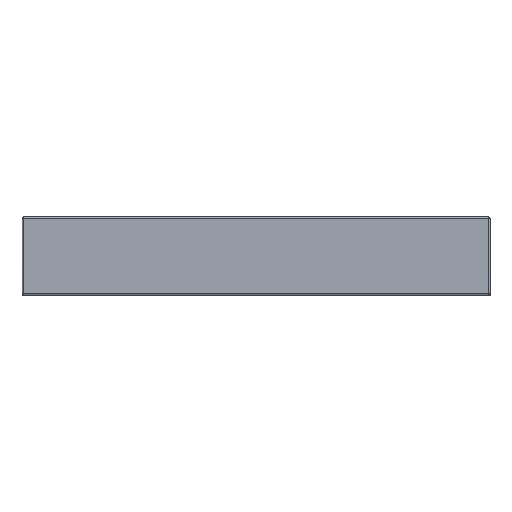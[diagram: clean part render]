
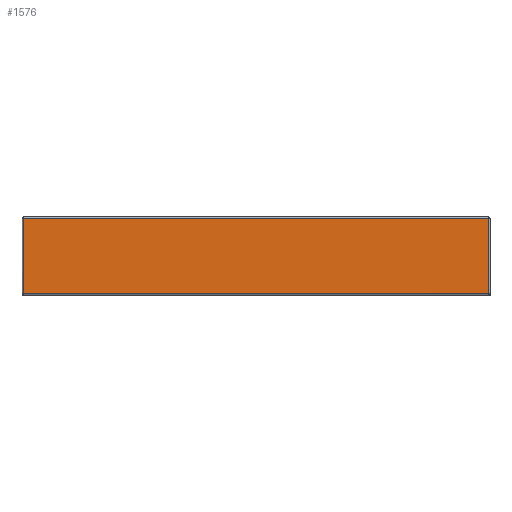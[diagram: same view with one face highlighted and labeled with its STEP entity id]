
A CAD part, top view. The second image highlights one B-rep face of the part: STEP entity #1576.
In plain terms, the highlighted planar face has unit normal (0, 0, 1).
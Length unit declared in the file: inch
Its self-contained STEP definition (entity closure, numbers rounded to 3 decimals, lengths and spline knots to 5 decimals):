
#29=DIRECTION('',(1.,0.,0.));
#30=VECTOR('',#29,59.688);
#31=CARTESIAN_POINT('',(-29.844,-4.844,3.));
#32=LINE('',#31,#30);
#117=DIRECTION('',(0.,1.,0.));
#118=VECTOR('',#117,9.688);
#119=CARTESIAN_POINT('',(29.844,-4.844,3.));
#120=LINE('',#119,#118);
#212=DIRECTION('',(-1.,0.,0.));
#213=VECTOR('',#212,59.688);
#214=CARTESIAN_POINT('',(29.844,4.844,3.));
#215=LINE('',#214,#213);
#287=DIRECTION('',(0.,-1.,0.));
#288=VECTOR('',#287,9.688);
#289=CARTESIAN_POINT('',(-29.844,4.844,3.));
#290=LINE('',#289,#288);
#1295=CARTESIAN_POINT('',(29.844,4.844,3.));
#1297=VERTEX_POINT('',#1295);
#1299=CARTESIAN_POINT('',(-29.844,4.844,3.));
#1300=VERTEX_POINT('',#1299);
#1335=CARTESIAN_POINT('',(29.844,-4.844,3.));
#1336=VERTEX_POINT('',#1335);
#1341=CARTESIAN_POINT('',(-29.844,-4.844,3.));
#1342=VERTEX_POINT('',#1341);
#1561=CARTESIAN_POINT('',(0.,0.,3.));
#1562=DIRECTION('',(0.,0.,1.));
#1563=DIRECTION('',(1.,0.,0.));
#1564=AXIS2_PLACEMENT_3D('',#1561,#1562,#1563);
#1565=PLANE('',#1564);
#1567=ORIENTED_EDGE('',*,*,#1566,.F.);
#1569=ORIENTED_EDGE('',*,*,#1568,.F.);
#1571=ORIENTED_EDGE('',*,*,#1570,.F.);
#1573=ORIENTED_EDGE('',*,*,#1572,.F.);
#1574=EDGE_LOOP('',(#1567,#1569,#1571,#1573));
#1575=FACE_OUTER_BOUND('',#1574,.F.);
#1566=EDGE_CURVE('',#1342,#1336,#32,.T.);
#1568=EDGE_CURVE('',#1300,#1342,#290,.T.);
#1570=EDGE_CURVE('',#1297,#1300,#215,.T.);
#1572=EDGE_CURVE('',#1336,#1297,#120,.T.);
#1576=ADVANCED_FACE('',(#1575),#1565,.T.);
